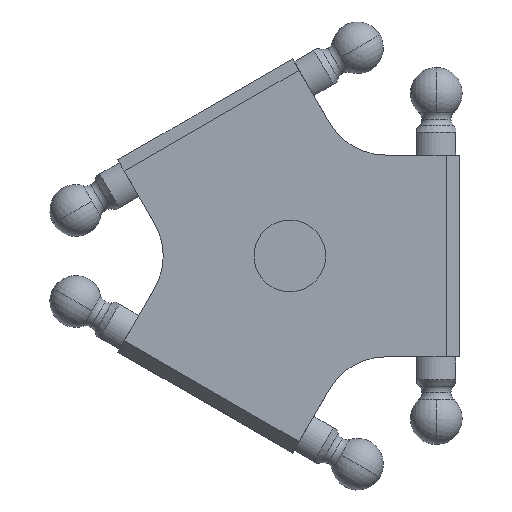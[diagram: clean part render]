
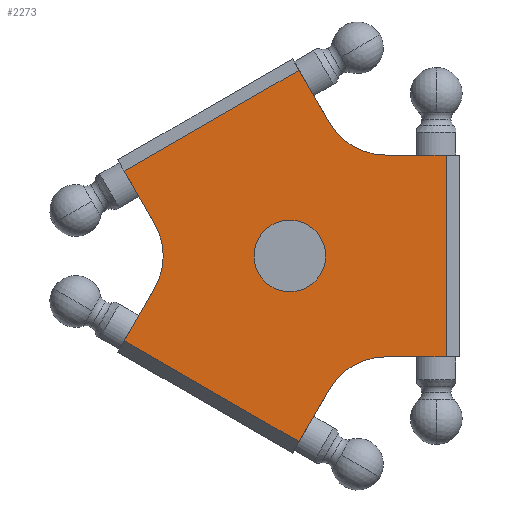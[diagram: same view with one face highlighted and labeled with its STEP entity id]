
A CAD part, top view. The second image highlights one B-rep face of the part: STEP entity #2273.
In plain terms, the highlighted planar face has unit normal (0, 0, 1).
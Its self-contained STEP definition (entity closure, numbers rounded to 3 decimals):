
#60 = VERTEX_POINT ( 'NONE', #463 ) ;
#143 = CARTESIAN_POINT ( 'NONE',  ( 29.545, -51., -888.545 ) ) ;
#256 = EDGE_CURVE ( 'NONE', #7947, #8108, #983, .T. ) ;
#339 = CARTESIAN_POINT ( 'NONE',  ( 12.224, 41., -888.545 ) ) ;
#357 = AXIS2_PLACEMENT_3D ( 'NONE', #3694, #3064, #2298 ) ;
#463 = CARTESIAN_POINT ( 'NONE',  ( -50.747, 26.069, -888.545 ) ) ;
#469 = LINE ( 'NONE', #3597, #7337 ) ;
#483 = ORIENTED_EDGE ( 'NONE', *, *, #1306, .T. ) ;
#491 = CARTESIAN_POINT ( 'NONE',  ( 29.545, -31., -888.545 ) ) ;
#535 = EDGE_CURVE ( 'NONE', #3675, #4665, #991, .T. ) ;
#612 = DIRECTION ( 'NONE',  ( -0.5, -0.866, 0. ) ) ;
#634 = VERTEX_POINT ( 'NONE', #6058 ) ;
#897 = VECTOR ( 'NONE', #5011, 1000. ) ;
#920 = FACE_BOUND ( 'NONE', #7679, .T. ) ;
#983 = CIRCLE ( 'NONE', #6375, 11. ) ;
#985 = VERTEX_POINT ( 'NONE', #6688 ) ;
#991 = CIRCLE ( 'NONE', #7609, 20. ) ;
#995 = AXIS2_PLACEMENT_3D ( 'NONE', #8003, #4780, #7884 ) ;
#1041 = VECTOR ( 'NONE', #3903, 1000. ) ;
#1073 = EDGE_CURVE ( 'NONE', #3341, #634, #6529, .T. ) ;
#1112 = DIRECTION ( 'NONE',  ( 0.5, 0.866, 0. ) ) ;
#1170 = LINE ( 'NONE', #4454, #2649 ) ;
#1182 = CARTESIAN_POINT ( 'NONE',  ( 20.267, -67.069, -888.545 ) ) ;
#1306 = EDGE_CURVE ( 'NONE', #60, #4665, #7791, .T. ) ;
#1367 = ORIENTED_EDGE ( 'NONE', *, *, #1970, .F. ) ;
#1476 = DIRECTION ( 'NONE',  ( -1., 0., 0. ) ) ;
#1742 = DIRECTION ( 'NONE',  ( 0., -1., 0. ) ) ;
#1811 = CARTESIAN_POINT ( 'NONE',  ( 29.545, 31., -888.545 ) ) ;
#1849 = VERTEX_POINT ( 'NONE', #6033 ) ;
#1937 = DIRECTION ( 'NONE',  ( 0., 0., 1. ) ) ;
#1970 = EDGE_CURVE ( 'NONE', #5530, #1849, #4406, .T. ) ;
#1994 = CIRCLE ( 'NONE', #357, 11. ) ;
#2083 = VERTEX_POINT ( 'NONE', #7733 ) ;
#2138 = FACE_OUTER_BOUND ( 'NONE', #6470, .T. ) ;
#2224 = DIRECTION ( 'NONE',  ( 0., 0., 1. ) ) ;
#2273 = ADVANCED_FACE ( 'NONE', ( #2138, #920 ), #8019, .T. ) ;
#2298 = DIRECTION ( 'NONE',  ( 0., -1., 0. ) ) ;
#2322 = VECTOR ( 'NONE', #6211, 1000. ) ;
#2382 = CARTESIAN_POINT ( 'NONE',  ( -50.747, 26.069, -888.545 ) ) ;
#2632 = ORIENTED_EDGE ( 'NONE', *, *, #4763, .F. ) ;
#2649 = VECTOR ( 'NONE', #612, 1000. ) ;
#2691 = DIRECTION ( 'NONE',  ( 0., -1., 0. ) ) ;
#2707 = ORIENTED_EDGE ( 'NONE', *, *, #5584, .F. ) ;
#2730 = DIRECTION ( 'NONE',  ( 0., 0., 1. ) ) ;
#2783 = DIRECTION ( 'NONE',  ( 0., -1., 0. ) ) ;
#2817 = CARTESIAN_POINT ( 'NONE',  ( 0.1, -11., -888.545 ) ) ;
#3064 = DIRECTION ( 'NONE',  ( 0., 0., 1. ) ) ;
#3112 = EDGE_CURVE ( 'NONE', #6364, #3675, #469, .T. ) ;
#3126 = VERTEX_POINT ( 'NONE', #8089 ) ;
#3166 = CARTESIAN_POINT ( 'NONE',  ( 48.1, -51., -888.545 ) ) ;
#3337 = DIRECTION ( 'NONE',  ( 0.5, -0.866, 0. ) ) ;
#3341 = VERTEX_POINT ( 'NONE', #1811 ) ;
#3533 = CARTESIAN_POINT ( 'NONE',  ( 0.1, 0., -888.545 ) ) ;
#3597 = CARTESIAN_POINT ( 'NONE',  ( -52.747, -29.533, -888.545 ) ) ;
#3675 = VERTEX_POINT ( 'NONE', #6565 ) ;
#3694 = CARTESIAN_POINT ( 'NONE',  ( 0.1, 0., -888.545 ) ) ;
#3713 = EDGE_CURVE ( 'NONE', #5698, #3341, #3901, .T. ) ;
#3829 = VECTOR ( 'NONE', #3337, 1000. ) ;
#3901 = LINE ( 'NONE', #6603, #4390 ) ;
#3903 = DIRECTION ( 'NONE',  ( -0.866, -0.5, 0. ) ) ;
#4390 = VECTOR ( 'NONE', #5245, 1000. ) ;
#4406 = CIRCLE ( 'NONE', #7373, 20. ) ;
#4444 = EDGE_CURVE ( 'NONE', #6364, #2083, #7011, .T. ) ;
#4454 = CARTESIAN_POINT ( 'NONE',  ( 12.224, -41., -888.545 ) ) ;
#4665 = VERTEX_POINT ( 'NONE', #6829 ) ;
#4702 = ORIENTED_EDGE ( 'NONE', *, *, #3713, .T. ) ;
#4763 = EDGE_CURVE ( 'NONE', #1849, #2083, #1170, .T. ) ;
#4780 = DIRECTION ( 'NONE',  ( 0., 0., -1. ) ) ;
#4903 = LINE ( 'NONE', #339, #2322 ) ;
#4909 = EDGE_CURVE ( 'NONE', #3126, #60, #8179, .T. ) ;
#5011 = DIRECTION ( 'NONE',  ( 0.866, -0.5, 0. ) ) ;
#5100 = ORIENTED_EDGE ( 'NONE', *, *, #535, .F. ) ;
#5245 = DIRECTION ( 'NONE',  ( -1., 0., 0. ) ) ;
#5396 = ORIENTED_EDGE ( 'NONE', *, *, #4444, .T. ) ;
#5418 = LINE ( 'NONE', #7267, #5548 ) ;
#5487 = ORIENTED_EDGE ( 'NONE', *, *, #8333, .T. ) ;
#5515 = ORIENTED_EDGE ( 'NONE', *, *, #3112, .F. ) ;
#5530 = VERTEX_POINT ( 'NONE', #491 ) ;
#5548 = VECTOR ( 'NONE', #1476, 1000. ) ;
#5584 = EDGE_CURVE ( 'NONE', #8108, #7947, #1994, .T. ) ;
#5698 = VERTEX_POINT ( 'NONE', #7933 ) ;
#5748 = LINE ( 'NONE', #3166, #8126 ) ;
#6033 = CARTESIAN_POINT ( 'NONE',  ( 12.224, -41., -888.545 ) ) ;
#6058 = CARTESIAN_POINT ( 'NONE',  ( 12.224, 41., -888.545 ) ) ;
#6211 = DIRECTION ( 'NONE',  ( -0.5, 0.866, 0. ) ) ;
#6285 = DIRECTION ( 'NONE',  ( 0., 0., 1. ) ) ;
#6321 = DIRECTION ( 'NONE',  ( 0., -1., 0. ) ) ;
#6364 = VERTEX_POINT ( 'NONE', #7521 ) ;
#6375 = AXIS2_PLACEMENT_3D ( 'NONE', #3533, #2224, #2783 ) ;
#6411 = ORIENTED_EDGE ( 'NONE', *, *, #7101, .F. ) ;
#6470 = EDGE_LOOP ( 'NONE', ( #8264, #7361, #483, #5100, #5515, #5396, #2632, #1367, #6411, #5487, #4702, #8009 ) ) ;
#6529 = CIRCLE ( 'NONE', #995, 20. ) ;
#6546 = ORIENTED_EDGE ( 'NONE', *, *, #256, .F. ) ;
#6565 = CARTESIAN_POINT ( 'NONE',  ( -41.469, -10., -888.545 ) ) ;
#6603 = CARTESIAN_POINT ( 'NONE',  ( 52.1, 31., -888.545 ) ) ;
#6688 = CARTESIAN_POINT ( 'NONE',  ( 48.1, -31., -888.545 ) ) ;
#6829 = CARTESIAN_POINT ( 'NONE',  ( -41.469, 10., -888.545 ) ) ;
#6968 = AXIS2_PLACEMENT_3D ( 'NONE', #143, #2730, #6321 ) ;
#7011 = LINE ( 'NONE', #1182, #897 ) ;
#7101 = EDGE_CURVE ( 'NONE', #985, #5530, #5418, .T. ) ;
#7148 = CARTESIAN_POINT ( 'NONE',  ( -52.747, 29.533, -888.545 ) ) ;
#7267 = CARTESIAN_POINT ( 'NONE',  ( 52.1, -31., -888.545 ) ) ;
#7337 = VECTOR ( 'NONE', #1112, 1000. ) ;
#7361 = ORIENTED_EDGE ( 'NONE', *, *, #4909, .T. ) ;
#7373 = AXIS2_PLACEMENT_3D ( 'NONE', #8153, #6285, #1742 ) ;
#7521 = CARTESIAN_POINT ( 'NONE',  ( -50.747, -26.069, -888.545 ) ) ;
#7609 = AXIS2_PLACEMENT_3D ( 'NONE', #7732, #1937, #2691 ) ;
#7679 = EDGE_LOOP ( 'NONE', ( #2707, #6546 ) ) ;
#7732 = CARTESIAN_POINT ( 'NONE',  ( -58.79, 0., -888.545 ) ) ;
#7733 = CARTESIAN_POINT ( 'NONE',  ( 2.947, -57.069, -888.545 ) ) ;
#7743 = DIRECTION ( 'NONE',  ( 0., 1., 0. ) ) ;
#7791 = LINE ( 'NONE', #7148, #3829 ) ;
#7884 = DIRECTION ( 'NONE',  ( 0., 1., 0. ) ) ;
#7933 = CARTESIAN_POINT ( 'NONE',  ( 48.1, 31., -888.545 ) ) ;
#7947 = VERTEX_POINT ( 'NONE', #8123 ) ;
#7959 = EDGE_CURVE ( 'NONE', #634, #3126, #4903, .T. ) ;
#8003 = CARTESIAN_POINT ( 'NONE',  ( 29.545, 51., -888.545 ) ) ;
#8009 = ORIENTED_EDGE ( 'NONE', *, *, #1073, .T. ) ;
#8019 = PLANE ( 'NONE',  #6968 ) ;
#8089 = CARTESIAN_POINT ( 'NONE',  ( 2.947, 57.069, -888.545 ) ) ;
#8108 = VERTEX_POINT ( 'NONE', #2817 ) ;
#8123 = CARTESIAN_POINT ( 'NONE',  ( 0.1, 11., -888.545 ) ) ;
#8126 = VECTOR ( 'NONE', #7743, 1000. ) ;
#8153 = CARTESIAN_POINT ( 'NONE',  ( 29.545, -51., -888.545 ) ) ;
#8179 = LINE ( 'NONE', #2382, #1041 ) ;
#8264 = ORIENTED_EDGE ( 'NONE', *, *, #7959, .T. ) ;
#8333 = EDGE_CURVE ( 'NONE', #985, #5698, #5748, .T. ) ;
